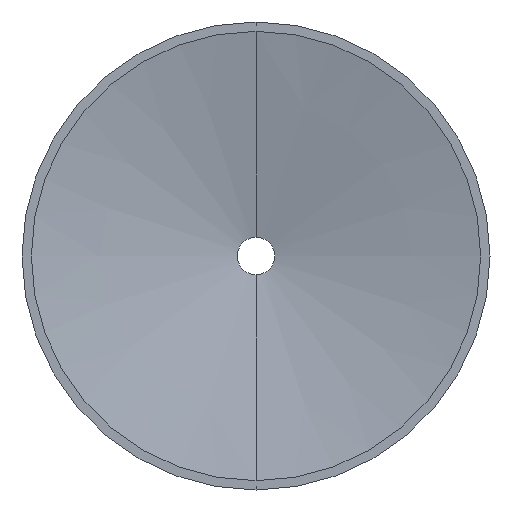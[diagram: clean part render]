
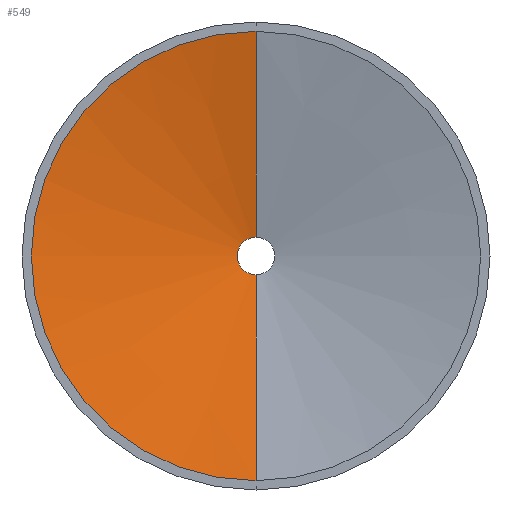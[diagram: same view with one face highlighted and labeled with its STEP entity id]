
A CAD part, front view. The second image highlights one B-rep face of the part: STEP entity #549.
In plain terms, the highlighted conical face has half-angle 78 degrees and reference radius 1 mm.
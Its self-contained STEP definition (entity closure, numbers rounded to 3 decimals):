
#6 = VERTEX_POINT ( 'NONE', #271 ) ;
#12 = CARTESIAN_POINT ( 'NONE',  ( 0., 2.338, 0. ) ) ;
#16 = CARTESIAN_POINT ( 'NONE',  ( 0., 0., 0. ) ) ;
#21 = DIRECTION ( 'NONE',  ( 0., -1., 0. ) ) ;
#23 = DIRECTION ( 'NONE',  ( 0., 0., -1. ) ) ;
#34 = CARTESIAN_POINT ( 'NONE',  ( 0., 2.338, -1. ) ) ;
#49 = VECTOR ( 'NONE', #485, 1000. ) ;
#54 = EDGE_CURVE ( 'NONE', #126, #6, #218, .T. ) ;
#110 = CARTESIAN_POINT ( 'NONE',  ( 0., 0., 12. ) ) ;
#112 = AXIS2_PLACEMENT_3D ( 'NONE', #12, #341, #377 ) ;
#126 = VERTEX_POINT ( 'NONE', #396 ) ;
#168 = ORIENTED_EDGE ( 'NONE', *, *, #54, .F. ) ;
#173 = EDGE_CURVE ( 'NONE', #6, #277, #453, .T. ) ;
#218 = LINE ( 'NONE', #34, #49 ) ;
#219 = ORIENTED_EDGE ( 'NONE', *, *, #434, .F. ) ;
#233 = DIRECTION ( 'NONE',  ( 0., 0., -1. ) ) ;
#265 = ORIENTED_EDGE ( 'NONE', *, *, #276, .T. ) ;
#271 = CARTESIAN_POINT ( 'NONE',  ( 0., 0., -12. ) ) ;
#274 = VERTEX_POINT ( 'NONE', #287 ) ;
#276 = EDGE_CURVE ( 'NONE', #274, #277, #351, .T. ) ;
#277 = VERTEX_POINT ( 'NONE', #110 ) ;
#287 = CARTESIAN_POINT ( 'NONE',  ( 0., 2.338, 1. ) ) ;
#330 = DIRECTION ( 'NONE',  ( 0., 1., 0. ) ) ;
#340 = ORIENTED_EDGE ( 'NONE', *, *, #173, .F. ) ;
#341 = DIRECTION ( 'NONE',  ( 0., -1., 0. ) ) ;
#351 = LINE ( 'NONE', #509, #544 ) ;
#377 = DIRECTION ( 'NONE',  ( 0., 0., -1. ) ) ;
#379 = CONICAL_SURFACE ( 'NONE', #502, 1., 1.361 ) ;
#396 = CARTESIAN_POINT ( 'NONE',  ( 0., 2.338, -1. ) ) ;
#411 = EDGE_LOOP ( 'NONE', ( #219, #265, #340, #168 ) ) ;
#434 = EDGE_CURVE ( 'NONE', #274, #126, #491, .T. ) ;
#453 = CIRCLE ( 'NONE', #579, 12. ) ;
#476 = CARTESIAN_POINT ( 'NONE',  ( 0., 2.338, 0. ) ) ;
#485 = DIRECTION ( 'NONE',  ( 0., -0.208, -0.978 ) ) ;
#491 = CIRCLE ( 'NONE', #112, 1. ) ;
#502 = AXIS2_PLACEMENT_3D ( 'NONE', #476, #21, #23 ) ;
#503 = DIRECTION ( 'NONE',  ( 0., -0.208, 0.978 ) ) ;
#509 = CARTESIAN_POINT ( 'NONE',  ( 0., 2.338, 1. ) ) ;
#544 = VECTOR ( 'NONE', #503, 1000. ) ;
#549 = ADVANCED_FACE ( 'NONE', ( #589 ), #379, .F. ) ;
#579 = AXIS2_PLACEMENT_3D ( 'NONE', #16, #330, #233 ) ;
#589 = FACE_OUTER_BOUND ( 'NONE', #411, .T. ) ;
